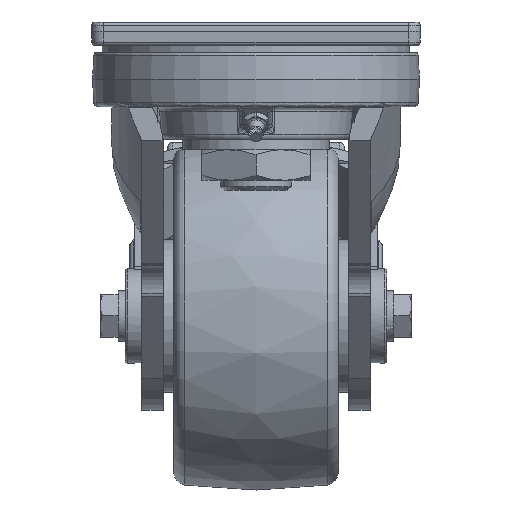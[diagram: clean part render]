
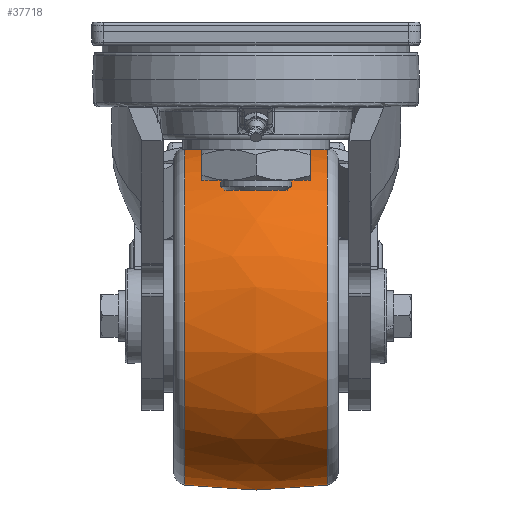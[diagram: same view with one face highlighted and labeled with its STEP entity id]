
A CAD part, left-side view. The second image highlights one B-rep face of the part: STEP entity #37718.
In plain terms, the highlighted free-form (B-spline) face has degree [2, 2] with [3, 9] control points.
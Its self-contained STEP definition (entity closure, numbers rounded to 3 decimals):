
#25=(
BOUNDED_SURFACE()
B_SPLINE_SURFACE(2,2,((#65151,#65152,#65153,#65154,#65155,#65156,#65157,
#65158,#65159),(#65160,#65161,#65162,#65163,#65164,#65165,#65166,#65167,
#65168),(#65169,#65170,#65171,#65172,#65173,#65174,#65175,#65176,#65177)),
 .UNSPECIFIED.,.F.,.T.,.F.)
B_SPLINE_SURFACE_WITH_KNOTS((3,3),(3,2,2,2,3),(-0.203,0.203),
(-3.142,-1.571,0.,1.571,3.142),
 .UNSPECIFIED.)
GEOMETRIC_REPRESENTATION_ITEM()
RATIONAL_B_SPLINE_SURFACE(((1.,0.707,1.,0.707,1.,
0.707,1.,0.707,1.),(0.98,0.693,
0.98,0.693,0.98,0.693,
0.98,0.693,0.98),(1.,0.707,
1.,0.707,1.,0.707,1.,0.707,1.)))
REPRESENTATION_ITEM('')
SURFACE()
);
#11892=FACE_OUTER_BOUND('',#14096,.T.);
#14096=EDGE_LOOP('',(#32531,#32532,#32533,#32534,#32535,#32536));
#15436=CIRCLE('',#39977,71.927);
#15437=CIRCLE('',#39978,71.927);
#15439=CIRCLE('',#39980,150.);
#15440=CIRCLE('',#39981,71.927);
#15441=CIRCLE('',#39982,71.927);
#18076=VERTEX_POINT('',#65145);
#18077=VERTEX_POINT('',#65147);
#18078=VERTEX_POINT('',#65178);
#18079=VERTEX_POINT('',#65180);
#23106=EDGE_CURVE('',#18076,#18077,#15436,.T.);
#23107=EDGE_CURVE('',#18077,#18076,#15437,.T.);
#23109=EDGE_CURVE('',#18076,#18078,#15439,.T.);
#23110=EDGE_CURVE('',#18079,#18078,#15440,.T.);
#23111=EDGE_CURVE('',#18078,#18079,#15441,.T.);
#32531=ORIENTED_EDGE('',*,*,#23107,.F.);
#32532=ORIENTED_EDGE('',*,*,#23106,.F.);
#32533=ORIENTED_EDGE('',*,*,#23109,.T.);
#32534=ORIENTED_EDGE('',*,*,#23110,.F.);
#32535=ORIENTED_EDGE('',*,*,#23111,.F.);
#32536=ORIENTED_EDGE('',*,*,#23109,.F.);
#37718=ADVANCED_FACE('',(#11892),#25,.F.);
#39977=AXIS2_PLACEMENT_3D('',#65148,#45794,#45795);
#39978=AXIS2_PLACEMENT_3D('',#65149,#45796,#45797);
#39980=AXIS2_PLACEMENT_3D('',#65179,#45800,#45801);
#39981=AXIS2_PLACEMENT_3D('',#65181,#45802,#45803);
#39982=AXIS2_PLACEMENT_3D('',#65182,#45804,#45805);
#45794=DIRECTION('center_axis',(0.,-1.,0.));
#45795=DIRECTION('ref_axis',(0.21,0.,-0.978));
#45796=DIRECTION('center_axis',(0.,-1.,0.));
#45797=DIRECTION('ref_axis',(0.21,0.,-0.978));
#45800=DIRECTION('center_axis',(0.978,0.,0.21));
#45801=DIRECTION('ref_axis',(0.21,0.,-0.978));
#45802=DIRECTION('center_axis',(0.,1.,0.));
#45803=DIRECTION('ref_axis',(0.21,0.,-0.978));
#45804=DIRECTION('center_axis',(0.,1.,0.));
#45805=DIRECTION('ref_axis',(0.21,0.,-0.978));
#65145=CARTESIAN_POINT('',(95.128,-30.208,-182.318));
#65147=CARTESIAN_POINT('',(64.872,-30.208,-41.682));
#65148=CARTESIAN_POINT('Origin',(80.,-30.208,-112.));
#65149=CARTESIAN_POINT('Origin',(80.,-30.208,-112.));
#65151=CARTESIAN_POINT('Ctrl Pts',(95.128,30.208,-182.318));
#65152=CARTESIAN_POINT('Ctrl Pts',(165.446,30.208,-167.189));
#65153=CARTESIAN_POINT('Ctrl Pts',(150.318,30.208,-96.872));
#65154=CARTESIAN_POINT('Ctrl Pts',(135.189,30.208,-26.554));
#65155=CARTESIAN_POINT('Ctrl Pts',(64.872,30.208,-41.682));
#65156=CARTESIAN_POINT('Ctrl Pts',(-5.446,30.208,-56.811));
#65157=CARTESIAN_POINT('Ctrl Pts',(9.682,30.208,-127.129));
#65158=CARTESIAN_POINT('Ctrl Pts',(24.811,30.208,-197.446));
#65159=CARTESIAN_POINT('Ctrl Pts',(95.128,30.208,-182.318));
#65160=CARTESIAN_POINT('Ctrl Pts',(96.435,0.,
-188.39));
#65161=CARTESIAN_POINT('Ctrl Pts',(172.824,0.,
-171.955));
#65162=CARTESIAN_POINT('Ctrl Pts',(156.39,0.,
-95.565));
#65163=CARTESIAN_POINT('Ctrl Pts',(139.955,0.,
-19.176));
#65164=CARTESIAN_POINT('Ctrl Pts',(63.565,0.,
-35.611));
#65165=CARTESIAN_POINT('Ctrl Pts',(-12.824,0.,
-52.045));
#65166=CARTESIAN_POINT('Ctrl Pts',(3.61,0.,
-128.435));
#65167=CARTESIAN_POINT('Ctrl Pts',(20.045,0.,
-204.825));
#65168=CARTESIAN_POINT('Ctrl Pts',(96.435,0.,
-188.39));
#65169=CARTESIAN_POINT('Ctrl Pts',(95.128,-30.208,-182.318));
#65170=CARTESIAN_POINT('Ctrl Pts',(165.446,-30.208,-167.189));
#65171=CARTESIAN_POINT('Ctrl Pts',(150.318,-30.208,-96.872));
#65172=CARTESIAN_POINT('Ctrl Pts',(135.189,-30.208,-26.554));
#65173=CARTESIAN_POINT('Ctrl Pts',(64.872,-30.208,-41.682));
#65174=CARTESIAN_POINT('Ctrl Pts',(-5.446,-30.208,
-56.811));
#65175=CARTESIAN_POINT('Ctrl Pts',(9.682,-30.208,-127.129));
#65176=CARTESIAN_POINT('Ctrl Pts',(24.811,-30.208,-197.446));
#65177=CARTESIAN_POINT('Ctrl Pts',(95.128,-30.208,-182.318));
#65178=CARTESIAN_POINT('',(95.128,30.208,-182.318));
#65179=CARTESIAN_POINT('Origin',(64.225,0.,-38.678));
#65180=CARTESIAN_POINT('',(64.872,30.208,-41.682));
#65181=CARTESIAN_POINT('Origin',(80.,30.208,-112.));
#65182=CARTESIAN_POINT('Origin',(80.,30.208,-112.));
